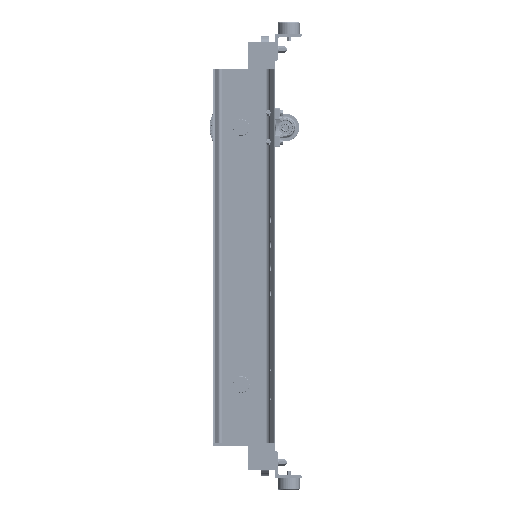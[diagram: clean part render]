
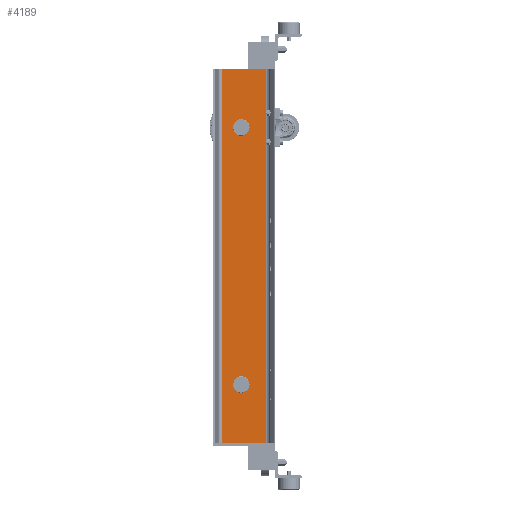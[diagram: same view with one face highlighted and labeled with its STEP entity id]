
A CAD part, left-side view. The second image highlights one B-rep face of the part: STEP entity #4189.
In plain terms, the highlighted planar face has unit normal (-1, 0, 0) as drawn and (1, 0, 0) by its records, which use the part's own axes.
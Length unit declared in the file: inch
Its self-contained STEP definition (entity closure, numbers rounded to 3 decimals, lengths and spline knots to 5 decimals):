
#136 = CARTESIAN_POINT ( 'NONE',  ( 0.375, 1.23024, 24. ) ) ;
#1505 = VERTEX_POINT ( 'NONE', #107060 ) ;
#2932 = PLANE ( 'NONE',  #2961 ) ;
#2961 = AXIS2_PLACEMENT_3D ( 'NONE', #118643, #82879, #84337 ) ;
#4189 = ADVANCED_FACE ( 'NONE', ( #37323, #116414, #14138 ), #2932, .T. ) ;
#8644 = CIRCLE ( 'NONE', #20605, 0.986 ) ;
#9025 = DIRECTION ( 'NONE',  ( 1., 0., 0. ) ) ;
#11499 = VECTOR ( 'NONE', #135955, 39.37008 ) ;
#14138 = FACE_OUTER_BOUND ( 'NONE', #73624, .T. ) ;
#20605 = AXIS2_PLACEMENT_3D ( 'NONE', #76576, #28785, #99724 ) ;
#21395 = CARTESIAN_POINT ( 'NONE',  ( 0.375, 3.37, -16.5 ) ) ;
#24673 = EDGE_CURVE ( 'NONE', #32732, #28104, #86146, .T. ) ;
#25716 = VECTOR ( 'NONE', #25887, 39.37008 ) ;
#25887 = DIRECTION ( 'NONE',  ( 0., -1., 0. ) ) ;
#28104 = VERTEX_POINT ( 'NONE', #89796 ) ;
#28785 = DIRECTION ( 'NONE',  ( 1., 0., 0. ) ) ;
#30472 = EDGE_CURVE ( 'NONE', #124994, #32732, #104644, .T. ) ;
#32732 = VERTEX_POINT ( 'NONE', #61504 ) ;
#34963 = ORIENTED_EDGE ( 'NONE', *, *, #30472, .T. ) ;
#36723 = CARTESIAN_POINT ( 'NONE',  ( 0.375, 6.76976, 24. ) ) ;
#37119 = LINE ( 'NONE', #117677, #25716 ) ;
#37323 = FACE_BOUND ( 'NONE', #86279, .T. ) ;
#46680 = ORIENTED_EDGE ( 'NONE', *, *, #79957, .F. ) ;
#55017 = DIRECTION ( 'NONE',  ( 1., 0., 0. ) ) ;
#56121 = DIRECTION ( 'NONE',  ( 0., 0., -1. ) ) ;
#61504 = CARTESIAN_POINT ( 'NONE',  ( 0.375, 1.23024, 24. ) ) ;
#62436 = VERTEX_POINT ( 'NONE', #111181 ) ;
#63537 = CIRCLE ( 'NONE', #130535, 0.986 ) ;
#67115 = CARTESIAN_POINT ( 'NONE',  ( 0.375, 6.76976, 24. ) ) ;
#69302 = DIRECTION ( 'NONE',  ( 1., 0., 0. ) ) ;
#69750 = EDGE_CURVE ( 'NONE', #127094, #62436, #8644, .T. ) ;
#70031 = CARTESIAN_POINT ( 'NONE',  ( 0.375, 4.356, 16.5 ) ) ;
#71135 = ORIENTED_EDGE ( 'NONE', *, *, #108056, .F. ) ;
#72925 = VECTOR ( 'NONE', #56121, 39.37008 ) ;
#73624 = EDGE_LOOP ( 'NONE', ( #88315, #46680, #34963, #141315 ) ) ;
#76310 = ORIENTED_EDGE ( 'NONE', *, *, #89248, .F. ) ;
#76576 = CARTESIAN_POINT ( 'NONE',  ( 0.375, 4.356, -16.5 ) ) ;
#79109 = LINE ( 'NONE', #67115, #100871 ) ;
#79957 = EDGE_CURVE ( 'NONE', #124994, #96120, #79109, .T. ) ;
#82879 = DIRECTION ( 'NONE',  ( 1., 0., 0. ) ) ;
#83582 = CARTESIAN_POINT ( 'NONE',  ( 0.375, 6.76976, -24. ) ) ;
#84337 = DIRECTION ( 'NONE',  ( 0., 0., -1. ) ) ;
#86146 = LINE ( 'NONE', #136, #72925 ) ;
#86279 = EDGE_LOOP ( 'NONE', ( #71135, #99864 ) ) ;
#88315 = ORIENTED_EDGE ( 'NONE', *, *, #90479, .F. ) ;
#89248 = EDGE_CURVE ( 'NONE', #140868, #1505, #123204, .T. ) ;
#89796 = CARTESIAN_POINT ( 'NONE',  ( 0.375, 1.23024, -24. ) ) ;
#90274 = DIRECTION ( 'NONE',  ( 0., 1., 0. ) ) ;
#90479 = EDGE_CURVE ( 'NONE', #96120, #28104, #37119, .T. ) ;
#96120 = VERTEX_POINT ( 'NONE', #83582 ) ;
#99724 = DIRECTION ( 'NONE',  ( 0., 1., 0. ) ) ;
#99864 = ORIENTED_EDGE ( 'NONE', *, *, #69750, .F. ) ;
#100170 = DIRECTION ( 'NONE',  ( 0., 1., 0. ) ) ;
#100871 = VECTOR ( 'NONE', #123853, 39.37008 ) ;
#104167 = EDGE_CURVE ( 'NONE', #1505, #140868, #132239, .T. ) ;
#104644 = LINE ( 'NONE', #36723, #11499 ) ;
#107060 = CARTESIAN_POINT ( 'NONE',  ( 0.375, 3.37, 16.5 ) ) ;
#108056 = EDGE_CURVE ( 'NONE', #62436, #127094, #63537, .T. ) ;
#108395 = ORIENTED_EDGE ( 'NONE', *, *, #104167, .F. ) ;
#111181 = CARTESIAN_POINT ( 'NONE',  ( 0.375, 5.342, -16.5 ) ) ;
#111312 = CARTESIAN_POINT ( 'NONE',  ( 0.375, 4.356, -16.5 ) ) ;
#116414 = FACE_BOUND ( 'NONE', #116448, .T. ) ;
#116448 = EDGE_LOOP ( 'NONE', ( #76310, #108395 ) ) ;
#117677 = CARTESIAN_POINT ( 'NONE',  ( 0.375, 6.76976, -24. ) ) ;
#118643 = CARTESIAN_POINT ( 'NONE',  ( 0.375, 6.76976, 24. ) ) ;
#123204 = CIRCLE ( 'NONE', #130440, 0.986 ) ;
#123853 = DIRECTION ( 'NONE',  ( 0., 0., -1. ) ) ;
#124994 = VERTEX_POINT ( 'NONE', #139551 ) ;
#125172 = DIRECTION ( 'NONE',  ( 0., 1., 0. ) ) ;
#127094 = VERTEX_POINT ( 'NONE', #21395 ) ;
#130440 = AXIS2_PLACEMENT_3D ( 'NONE', #136320, #55017, #125172 ) ;
#130535 = AXIS2_PLACEMENT_3D ( 'NONE', #111312, #9025, #100170 ) ;
#132239 = CIRCLE ( 'NONE', #134551, 0.986 ) ;
#134551 = AXIS2_PLACEMENT_3D ( 'NONE', #70031, #69302, #90274 ) ;
#135955 = DIRECTION ( 'NONE',  ( 0., -1., 0. ) ) ;
#136320 = CARTESIAN_POINT ( 'NONE',  ( 0.375, 4.356, 16.5 ) ) ;
#139261 = CARTESIAN_POINT ( 'NONE',  ( 0.375, 5.342, 16.5 ) ) ;
#139551 = CARTESIAN_POINT ( 'NONE',  ( 0.375, 6.76976, 24. ) ) ;
#140868 = VERTEX_POINT ( 'NONE', #139261 ) ;
#141315 = ORIENTED_EDGE ( 'NONE', *, *, #24673, .T. ) ;
